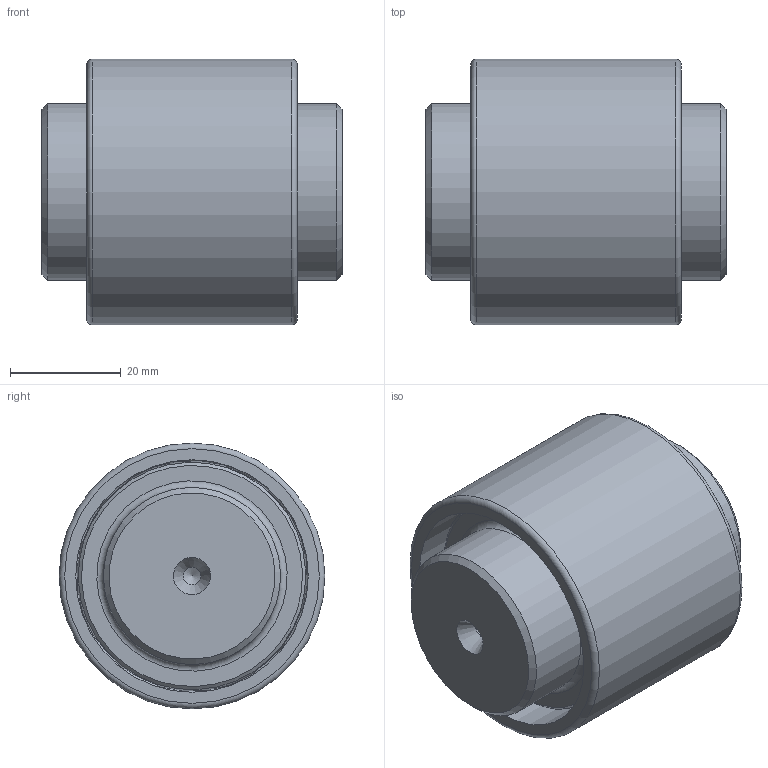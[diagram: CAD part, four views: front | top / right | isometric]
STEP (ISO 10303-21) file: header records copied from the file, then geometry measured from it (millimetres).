
FILE_DESCRIPTION(/* description */ (''),/* implementation_level */ '2;1');
FILE_NAME(/* name */ 'C:\Users\stagistacad\Desktop\00101902.stp',/* time_stamp */ '2018-06-18T16:33:35+02:00',/* author */ ('stagistacad'),/* organization */ (''),/* preprocessor_version */ 'ST-DEVELOPER v15.6',/* originating_system */ 'Autodesk Inventor 2015',/* authorisation */ '');
FILE_SCHEMA (('AUTOMOTIVE_DESIGN { 1 0 10303 214 3 1 1 }'));
Length unit declared in the file: millimetre
Products named in the file (3): 00101910; 00101920; 00101902
Bounding box: 54.2 x 48 x 48 mm (x, y, z)
Volume: 68081.7 mm3; surface area: 22358.4 mm2
Topology: 3 solids, 3 shells, 52 faces, 100 edges, 58 vertices
Faces by surface type: cone 18, cylinder 12, plane 10, torus 10, bspline 2
Full cylindrical faces by diameter (mm): 3.15 x4, 32 x4, 35 x1, 42 x2, 48 x1
Entity records: 784 total; most frequent: DIRECTION 144, CARTESIAN_POINT 136, AXIS2_PLACEMENT_3D 72, ORIENTED_EDGE 70, EDGE_LOOP 63, EDGE_CURVE 35, CIRCLE 34, VERTEX_POINT 34
